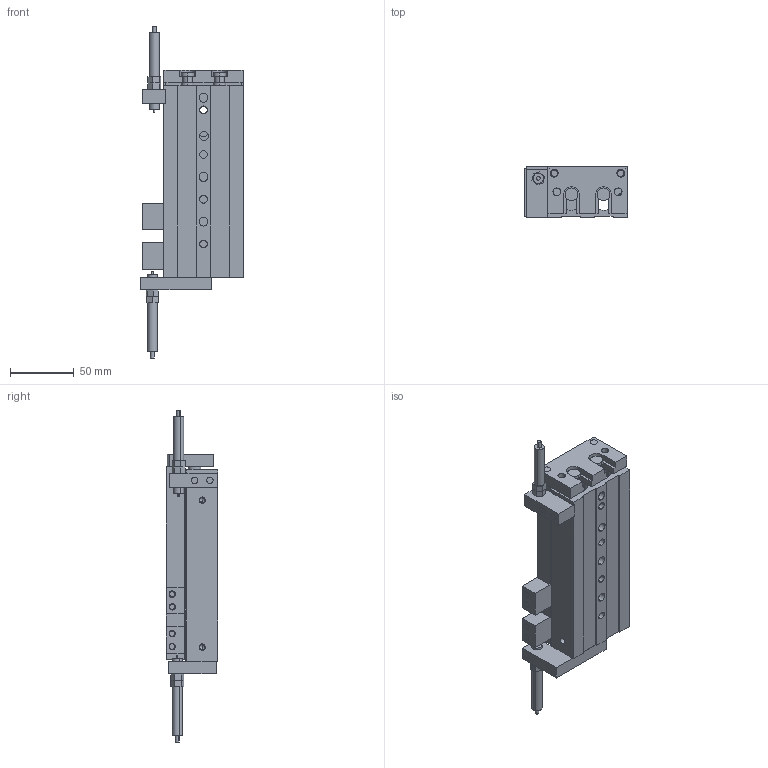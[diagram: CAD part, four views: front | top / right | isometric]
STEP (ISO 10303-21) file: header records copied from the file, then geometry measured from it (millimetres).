
FILE_DESCRIPTION (( 'STEP AP203' ), '1' );
FILE_NAME ('GDX 16-75.STEP', '2013-02-25T14:06:49', ( 'Conseil Régional Haute-Normandie' ), ( 'Conseil Régional Haute-Normandie' ), 'SwSTEP 2.0', 'SolidWorks 2010', '' );
FILE_SCHEMA (( 'CONFIG_CONTROL_DESIGN' ));
Length unit declared in the file: millimetre
Products named in the file (14): Pièce7 GDX16-75_Default; GDX 16-75; Pièce 4 GDX16-10; GDX25-10 Pièce14_Default; Pièce12 GDX16-10_Default; Pièce1 GDX 16-75_Default; Pièce2 GDX16-75_Default; Pièce6 GDX16-75_Default; Pièce9 GDX16-10_Default; Pièce8 GDX16-10_Default; Pièce5 GDX16-10_Default; Pièce3 GDX16-10_Default; Pièce10 GDX16-10_Default; Pièce11 GDX16-50_Default
Assembly tree (30 placements, depth 2):
  GDX 16-75
    GDX25-10 Pièce14_Default  x2
    Pièce5 GDX16-10_Default  x2
    Pièce10 GDX16-10_Default  x10
    Pièce2 GDX16-75_Default  x2
    Pièce12 GDX16-10_Default  x4
    Pièce11 GDX16-50_Default  x2
    Pièce1 GDX 16-75_Default
    Pièce3 GDX16-10_Default  x2
    Pièce7 GDX16-75_Default
    Pièce 4 GDX16-10
    Pièce9 GDX16-10_Default
    Pièce8 GDX16-10_Default
    Pièce6 GDX16-75_Default
Bounding box: 80 x 40 x 259.8 mm (x, y, z)
Volume: 326954.5 mm3; surface area: 133423.9 mm2
Topology: 30 solids, 30 shells, 806 faces, 2030 edges, 1330 vertices
Faces by surface type: plane 415, cylinder 230, bspline 133, cone 28
Entity records: 32504 total; most frequent: CARTESIAN_POINT 14805, ORIENTED_EDGE 3404, DIRECTION 2874, EDGE_CURVE 1702, VERTEX_POINT 1130, LINE 1112, VECTOR 1112, AXIS2_PLACEMENT_3D 881
